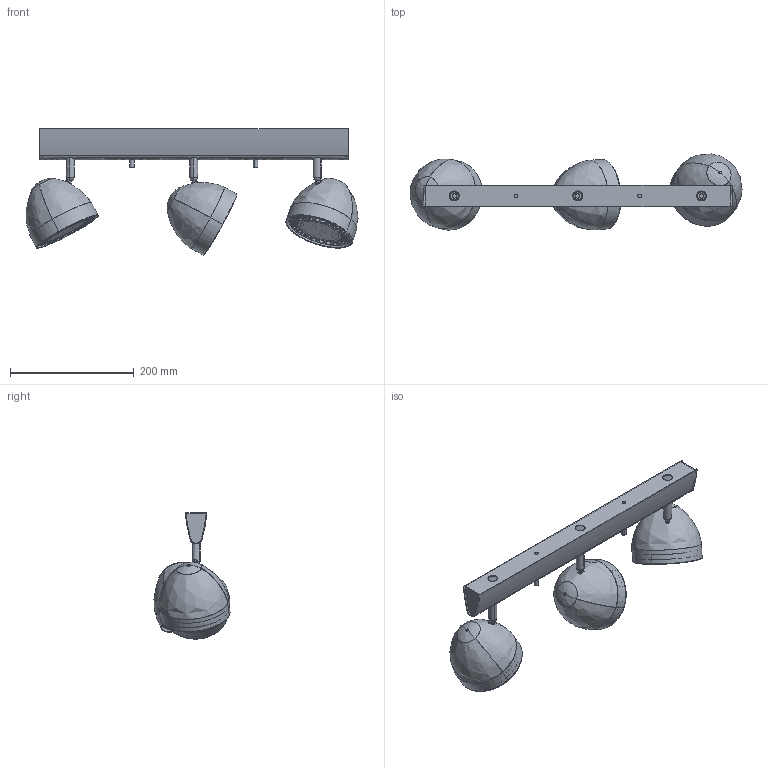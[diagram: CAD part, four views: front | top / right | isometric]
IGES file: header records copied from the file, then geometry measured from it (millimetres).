
Start section: SolidWorks IGES file using NURBS representation for surfaces
Global section: file name: Z:\Modele 3D_WWW\_KOLEKCJE_WWW\VESPA\VESPA-9592-8841\VESPA-9592-8841.IGS; native system: SolidWorks 2021; preprocessor: SolidWorks 2021; author: gabriela.tworek; date: 211105.123727; units: millimetre
Bounding box: 537.24 x 123.11 x 204.31 mm (x, y, z)
Surface area: 477576.8 mm2 (no closed solid volume)
Topology: 0 solids, 0 shells, 1742 faces, 27069 edges, 26961 vertices
Faces by surface type: bspline 1742
